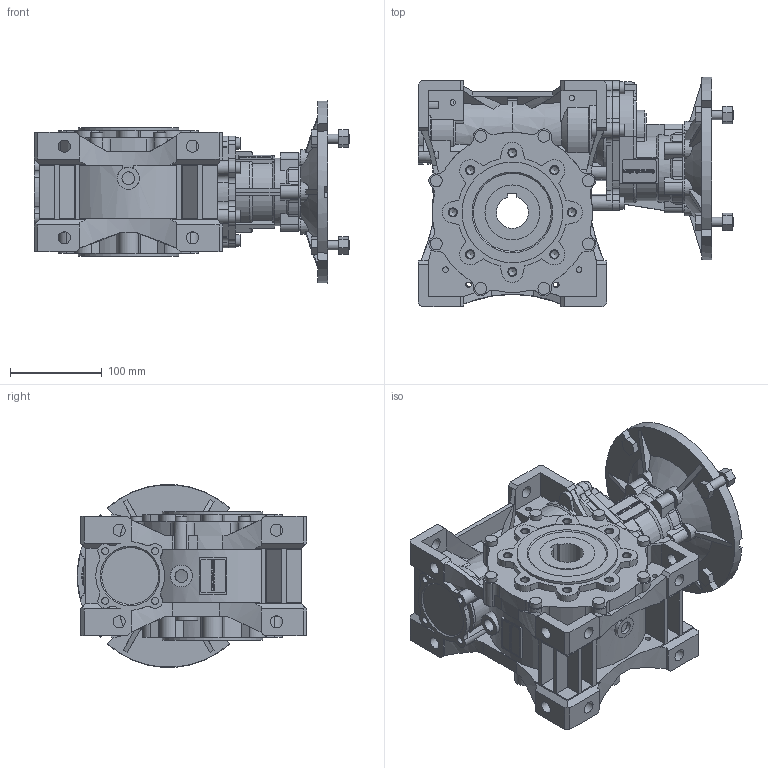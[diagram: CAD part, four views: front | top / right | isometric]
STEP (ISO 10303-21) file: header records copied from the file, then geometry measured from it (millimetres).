
FILE_DESCRIPTION(/* description */ ('STEP AP214'),/* implementation_level */ '2;1');
FILE_NAME(/* name */ 'NMRVP_HW 040-090 63 (4.2x15) 200x24 35 NO NO - - NO - - - NO NO - --(--------)',/* time_stamp */ '2024-10-09T10:17:50+02:00',/* author */ ('License CC BY-ND 4.0'),/* organization */ ('CADENAS'),/* preprocessor_version */ 'ST-DEVELOPER v19.3',/* originating_system */ 'PARTsolutions',/* authorisation */ ' ');
FILE_SCHEMA (('AUTOMOTIVE_DESIGN {1 0 10303 214 3 1 1}'));
Length unit declared in the file: millimetre
Products named in the file (8): NMRVP/HW 040-090 63 (4.2x15) 200x24 35 NO NO - - NO - - - NO NO - --(
--------); W.090.01.M; 090-35 (140); W.090.14.19.M-phw; 90-50; HW40; 6390 B5; PC.040.27.24.M
Assembly tree (7 placements, depth 2):
  NMRVP/HW 040-090 63 (4.2x15) 200x24 35 NO NO - - NO - - - NO NO - --(
--------)
    W.090.01.M
    090-35 (140)
    W.090.14.19.M-phw
    90-50
    HW40
    6390 B5
    PC.040.27.24.M
Bounding box: 345 x 250.84 x 199.34 mm (x, y, z)
Volume: 5042059 mm3; surface area: 630258 mm2
Topology: 7 solids, 9 shells, 1904 faces, 5197 edges, 3446 vertices
Faces by surface type: plane 1037, cylinder 742, cone 119, torus 6
Full cylindrical faces by diameter (mm): 6 x12, 7.45 x12, 8.376 x16, 10 x8, 13 x14, 13.4 x14, 14 x4, 18 x1, 24 x2, 31 x1, 32 x1, 39 x1, 40 x1, 45 x1, 50 x3, 58 x1, 60 x1, 68 x2, 75 x2, 90 x2, 110 x2, 130 x1
Entity records: 73414 total; most frequent: CARTESIAN_POINT 11660, DIRECTION 10188, ORIENTED_EDGE 9996, EDGE_CURVE 4998, AXIS2_PLACEMENT_3D 3645, VERTEX_POINT 3411, LINE 2898, VECTOR 2898
